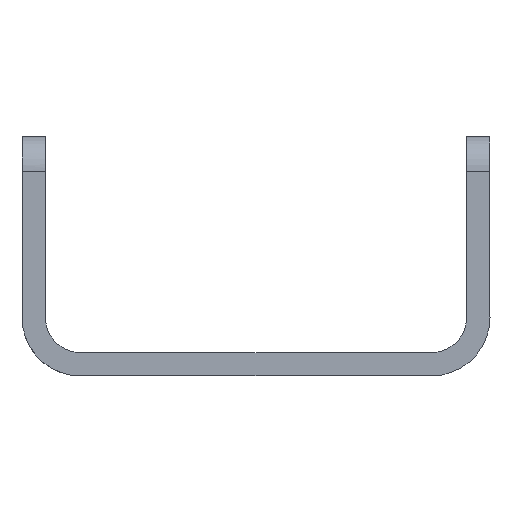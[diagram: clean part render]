
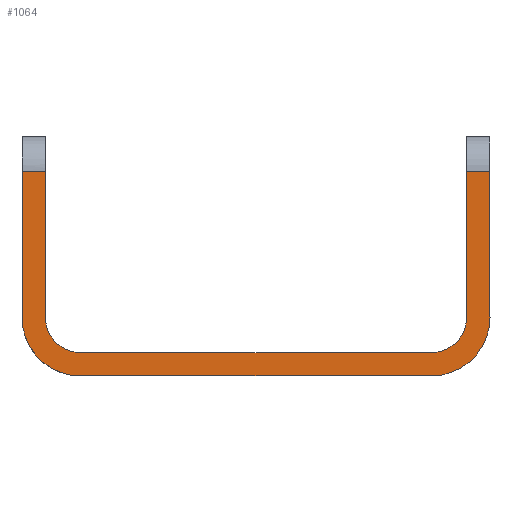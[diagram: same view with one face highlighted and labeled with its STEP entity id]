
A CAD part, front view. The second image highlights one B-rep face of the part: STEP entity #1064.
In plain terms, the highlighted planar face has unit normal (0, -1, 0).
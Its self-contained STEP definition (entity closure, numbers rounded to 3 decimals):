
#150=AXIS2_PLACEMENT_3D('Circle Axis2P3D',#148,#149,$) ;
#340=AXIS2_PLACEMENT_3D('Circle Axis2P3D',#338,#339,$) ;
#364=AXIS2_PLACEMENT_3D('Circle Axis2P3D',#362,#363,$) ;
#890=AXIS2_PLACEMENT_3D('Circle Axis2P3D',#888,#889,$) ;
#914=AXIS2_PLACEMENT_3D('Circle Axis2P3D',#912,#913,$) ;
#1034=AXIS2_PLACEMENT_3D('Plane Axis2P3D',#1031,#1032,#1033) ;
#1045=AXIS2_PLACEMENT_3D('Circle Axis2P3D',#1043,#1044,$) ;
#112=CARTESIAN_POINT('Vertex',(1385.499,482.001,44.499)) ;
#115=CARTESIAN_POINT('Line Origine',(1385.499,482.001,38.249)) ;
#119=CARTESIAN_POINT('Vertex',(1385.499,482.001,31.999)) ;
#148=CARTESIAN_POINT('Axis2P3D Location',(1380.499,482.001,31.999)) ;
#152=CARTESIAN_POINT('Vertex',(1380.499,482.001,26.999)) ;
#301=CARTESIAN_POINT('Vertex',(1347.499,482.001,44.498)) ;
#304=CARTESIAN_POINT('Line Origine',(1347.499,482.001,39.748)) ;
#308=CARTESIAN_POINT('Vertex',(1347.499,482.001,31.998)) ;
#338=CARTESIAN_POINT('Axis2P3D Location',(1350.499,482.001,31.998)) ;
#342=CARTESIAN_POINT('Vertex',(1348.378,482.001,29.877)) ;
#362=CARTESIAN_POINT('Axis2P3D Location',(1350.499,482.001,31.998)) ;
#366=CARTESIAN_POINT('Vertex',(1350.499,482.001,28.998)) ;
#386=CARTESIAN_POINT('Line Origine',(1365.499,482.001,28.999)) ;
#390=CARTESIAN_POINT('Vertex',(1380.499,482.001,28.999)) ;
#662=CARTESIAN_POINT('Line Origine',(1365.499,482.001,26.999)) ;
#666=CARTESIAN_POINT('Vertex',(1350.499,482.001,26.998)) ;
#795=CARTESIAN_POINT('Vertex',(1383.499,482.001,44.499)) ;
#798=CARTESIAN_POINT('Line Origine',(1365.499,482.001,44.499)) ;
#888=CARTESIAN_POINT('Axis2P3D Location',(1380.499,482.001,31.999)) ;
#892=CARTESIAN_POINT('Vertex',(1382.62,482.001,29.877)) ;
#912=CARTESIAN_POINT('Axis2P3D Location',(1380.499,482.001,31.999)) ;
#916=CARTESIAN_POINT('Vertex',(1383.499,482.001,31.999)) ;
#936=CARTESIAN_POINT('Line Origine',(1383.499,482.001,39.749)) ;
#966=CARTESIAN_POINT('Vertex',(1345.499,482.001,44.498)) ;
#969=CARTESIAN_POINT('Line Origine',(1365.499,482.001,44.499)) ;
#1031=CARTESIAN_POINT('Axis2P3D Location',(1345.499,482.001,26.998)) ;
#1036=CARTESIAN_POINT('Line Origine',(1345.499,482.001,38.248)) ;
#1040=CARTESIAN_POINT('Vertex',(1345.499,482.001,31.998)) ;
#1043=CARTESIAN_POINT('Axis2P3D Location',(1350.499,482.001,31.998)) ;
#116=DIRECTION('Vector Direction',(0.,0.,1.)) ;
#149=DIRECTION('Axis2P3D Direction',(0.,-1.,0.)) ;
#305=DIRECTION('Vector Direction',(0.,0.,1.)) ;
#339=DIRECTION('Axis2P3D Direction',(0.,-1.,0.)) ;
#363=DIRECTION('Axis2P3D Direction',(0.,-1.,0.)) ;
#387=DIRECTION('Vector Direction',(1.,0.,0.)) ;
#663=DIRECTION('Vector Direction',(1.,0.,0.)) ;
#799=DIRECTION('Vector Direction',(1.,0.,0.)) ;
#889=DIRECTION('Axis2P3D Direction',(0.,-1.,0.)) ;
#913=DIRECTION('Axis2P3D Direction',(0.,-1.,0.)) ;
#937=DIRECTION('Vector Direction',(0.,0.,1.)) ;
#970=DIRECTION('Vector Direction',(1.,0.,0.)) ;
#1032=DIRECTION('Axis2P3D Direction',(0.,-1.,0.)) ;
#1033=DIRECTION('Axis2P3D XDirection',(1.,0.,0.)) ;
#1037=DIRECTION('Vector Direction',(0.,0.,1.)) ;
#1044=DIRECTION('Axis2P3D Direction',(0.,-1.,0.)) ;
#117=VECTOR('Line Direction',#116,1.) ;
#306=VECTOR('Line Direction',#305,1.) ;
#388=VECTOR('Line Direction',#387,1.) ;
#664=VECTOR('Line Direction',#663,1.) ;
#800=VECTOR('Line Direction',#799,1.) ;
#938=VECTOR('Line Direction',#937,1.) ;
#971=VECTOR('Line Direction',#970,1.) ;
#1038=VECTOR('Line Direction',#1037,1.) ;
#1049=ORIENTED_EDGE('',*,*,#802,.F.) ;
#1050=ORIENTED_EDGE('',*,*,#940,.T.) ;
#1051=ORIENTED_EDGE('',*,*,#918,.T.) ;
#1052=ORIENTED_EDGE('',*,*,#894,.T.) ;
#1053=ORIENTED_EDGE('',*,*,#392,.T.) ;
#1054=ORIENTED_EDGE('',*,*,#368,.T.) ;
#1055=ORIENTED_EDGE('',*,*,#344,.T.) ;
#1056=ORIENTED_EDGE('',*,*,#310,.T.) ;
#1057=ORIENTED_EDGE('',*,*,#973,.F.) ;
#1058=ORIENTED_EDGE('',*,*,#1042,.F.) ;
#1059=ORIENTED_EDGE('',*,*,#1047,.F.) ;
#1060=ORIENTED_EDGE('',*,*,#668,.F.) ;
#1061=ORIENTED_EDGE('',*,*,#154,.F.) ;
#1062=ORIENTED_EDGE('',*,*,#121,.T.) ;
#1064=ADVANCED_FACE('71.1\\interfacebia.1\\\X2\51E04F554F53\X0\.8',(#1063),#1035,.T.) ;
#151=CIRCLE('generated circle',#150,5.) ;
#341=CIRCLE('generated circle',#340,3.) ;
#365=CIRCLE('generated circle',#364,3.) ;
#891=CIRCLE('generated circle',#890,3.) ;
#915=CIRCLE('generated circle',#914,3.) ;
#1046=CIRCLE('generated circle',#1045,5.) ;
#121=EDGE_CURVE('',#120,#113,#118,.T.) ;
#154=EDGE_CURVE('',#120,#153,#151,.F.) ;
#310=EDGE_CURVE('',#309,#302,#307,.T.) ;
#344=EDGE_CURVE('',#343,#309,#341,.F.) ;
#368=EDGE_CURVE('',#367,#343,#365,.F.) ;
#392=EDGE_CURVE('',#391,#367,#389,.F.) ;
#668=EDGE_CURVE('',#153,#667,#665,.F.) ;
#802=EDGE_CURVE('',#796,#113,#801,.T.) ;
#894=EDGE_CURVE('',#893,#391,#891,.F.) ;
#918=EDGE_CURVE('',#917,#893,#915,.F.) ;
#940=EDGE_CURVE('',#796,#917,#939,.F.) ;
#973=EDGE_CURVE('',#967,#302,#972,.T.) ;
#1042=EDGE_CURVE('',#1041,#967,#1039,.T.) ;
#1047=EDGE_CURVE('',#667,#1041,#1046,.F.) ;
#1048=EDGE_LOOP('',(#1049,#1050,#1051,#1052,#1053,#1054,#1055,#1056,#1057,#1058,#1059,#1060,#1061,#1062)) ;
#1063=FACE_OUTER_BOUND('',#1048,.T.) ;
#118=LINE('Line',#115,#117) ;
#307=LINE('Line',#304,#306) ;
#389=LINE('Line',#386,#388) ;
#665=LINE('Line',#662,#664) ;
#801=LINE('Line',#798,#800) ;
#939=LINE('Line',#936,#938) ;
#972=LINE('Line',#969,#971) ;
#1039=LINE('Line',#1036,#1038) ;
#1035=PLANE('Plane',#1034) ;
#113=VERTEX_POINT('',#112) ;
#120=VERTEX_POINT('',#119) ;
#153=VERTEX_POINT('',#152) ;
#302=VERTEX_POINT('',#301) ;
#309=VERTEX_POINT('',#308) ;
#343=VERTEX_POINT('',#342) ;
#367=VERTEX_POINT('',#366) ;
#391=VERTEX_POINT('',#390) ;
#667=VERTEX_POINT('',#666) ;
#796=VERTEX_POINT('',#795) ;
#893=VERTEX_POINT('',#892) ;
#917=VERTEX_POINT('',#916) ;
#967=VERTEX_POINT('',#966) ;
#1041=VERTEX_POINT('',#1040) ;
